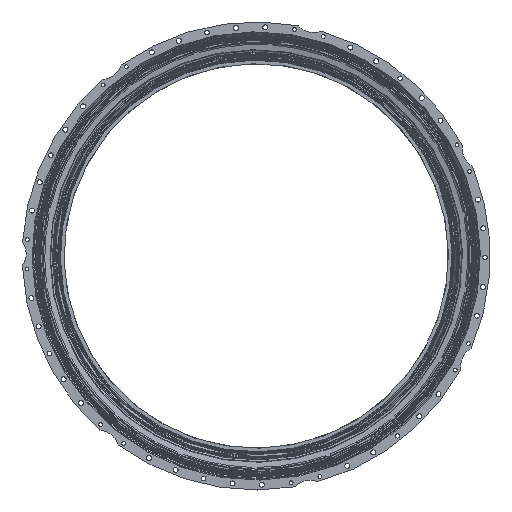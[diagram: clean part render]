
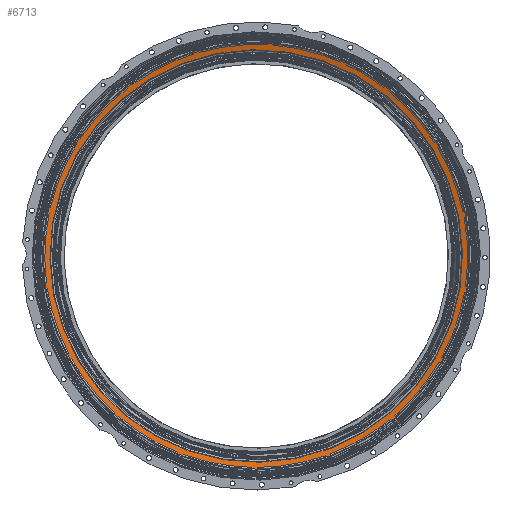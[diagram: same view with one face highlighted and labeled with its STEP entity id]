
A CAD part, front view. The second image highlights one B-rep face of the part: STEP entity #6713.
In plain terms, the highlighted conical face has half-angle 77 degrees and reference radius 349.915 mm.
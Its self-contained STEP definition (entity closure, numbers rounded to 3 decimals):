
#689=CONICAL_SURFACE('',#37894,349.915,77.);
#5031=FACE_BOUND('',#11111,.T.);
#5032=FACE_BOUND('',#11112,.T.);
#6713=ADVANCED_FACE('',(#5031,#5032),#689,.F.);
#11111=EDGE_LOOP('',(#20176));
#11112=EDGE_LOOP('',(#20177));
#13763=CIRCLE('',#37891,349.915);
#13764=CIRCLE('',#37893,361.9);
#20176=ORIENTED_EDGE('',*,*,#31611,.F.);
#20177=ORIENTED_EDGE('',*,*,#31610,.T.);
#27166=VERTEX_POINT('',#85407);
#27167=VERTEX_POINT('',#85410);
#31610=EDGE_CURVE('',#27166,#27166,#13763,.T.);
#31611=EDGE_CURVE('',#27167,#27167,#13764,.T.);
#37891=AXIS2_PLACEMENT_3D('',#85406,#44898,#44899);
#37893=AXIS2_PLACEMENT_3D('',#85409,#44902,#44903);
#37894=AXIS2_PLACEMENT_3D('',#85411,#44904,#44905);
#44898=DIRECTION('',(0.,1.,0.));
#44899=DIRECTION('',(-0.777,0.,0.629));
#44902=DIRECTION('',(0.,1.,0.));
#44903=DIRECTION('',(-0.777,0.,0.629));
#44904=DIRECTION('',(0.,-1.,0.));
#44905=DIRECTION('',(0.777,0.,-0.629));
#85406=CARTESIAN_POINT('',(0.,-25.598,0.));
#85407=CARTESIAN_POINT('',(-271.935,-25.598,220.209));
#85409=CARTESIAN_POINT('',(0.,-28.365,0.));
#85410=CARTESIAN_POINT('',(-281.249,-28.365,227.751));
#85411=CARTESIAN_POINT('',(0.,-25.598,0.));
